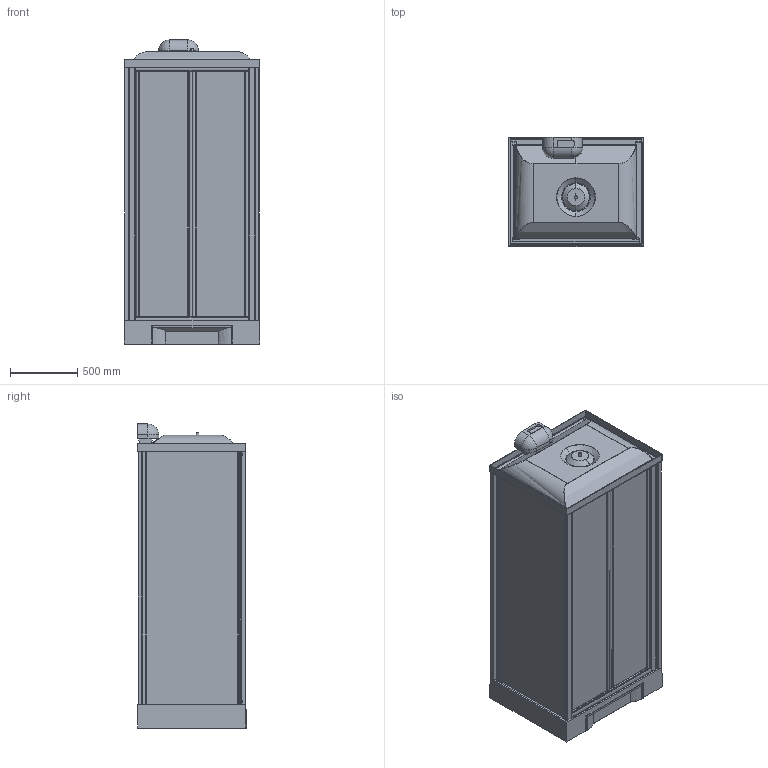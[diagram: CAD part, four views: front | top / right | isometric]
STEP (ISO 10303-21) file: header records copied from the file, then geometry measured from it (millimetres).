
FILE_DESCRIPTION(('STEP AP203'),'2;1');
FILE_NAME('NNH S 100 T 19 N.stp','2015-09-04T14:30:08',(''),(''),'2014.1.117','THINKDESIGN','');
FILE_SCHEMA(('CONFIG_CONTROL_DESIGN'));
Length unit declared in the file: millimetre
Products named in the file (1): top
Bounding box: 1004.04 x 807.72 x 2255 mm (x, y, z)
Volume: 232489934.9 mm3; surface area: 21142834.1 mm2
Topology: 40 solids, 40 shells, 787 faces, 1994 edges, 1305 vertices
Faces by surface type: bspline 363, plane 321, cylinder 103
Entity records: 68589 total; most frequent: CARTESIAN_POINT 52405, ORIENTED_EDGE 3792, DIRECTION 2342, EDGE_CURVE 1896, VERTEX_POINT 1232, VECTOR 904, LINE 904, EDGE_LOOP 806
